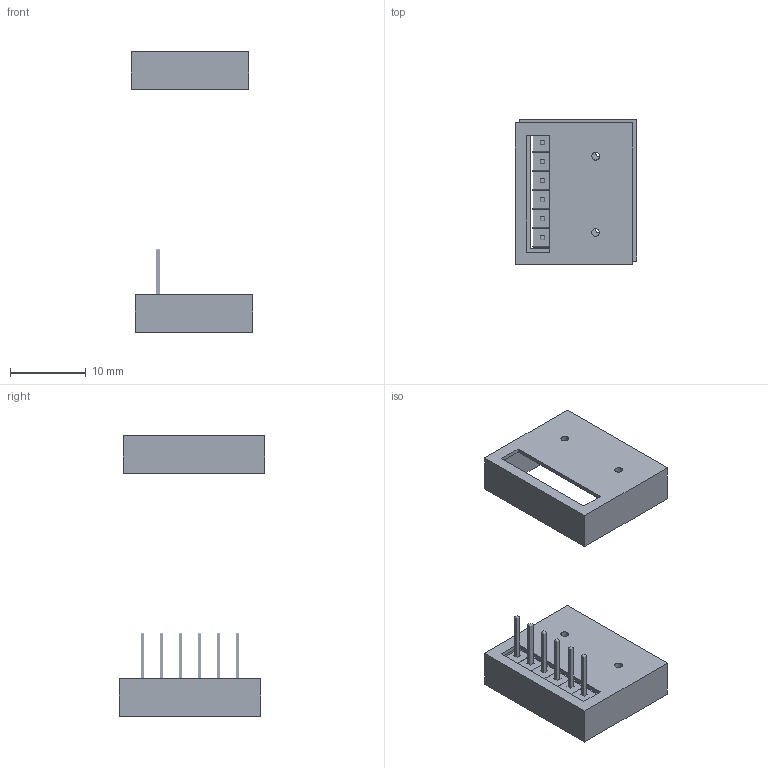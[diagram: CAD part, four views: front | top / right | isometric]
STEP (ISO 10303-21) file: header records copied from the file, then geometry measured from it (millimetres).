
FILE_DESCRIPTION(/* description */ ('STEP AP242 Edition 2','CAx-IF Rec.Pracs.---Representation and Presentation of Product Manufacturing Information (PMI)---4.0---2014-10-13','CAx-IF Rec.Pracs.---3D Tessellated Geometry---0.4---2014-09-14','2;1','CAx-IF Rec.Pracs.---User Defined Attributes---1.5---2016-08-15'),/* implementation_level */ '2;1');
FILE_NAME(/* name */ 'BMP280+mount',/* time_stamp */ '2026-02-01T16:55:09Z',/* author */ (''),/* organization */ (''),/* preprocessor_version */ 'ST-DEVELOPER v20',/* originating_system */ 'ONSHAPE BY PTC INC, 1.210',/* authorisation */ ' ');
FILE_SCHEMA (('AP242_MANAGED_MODEL_BASED_3D_ENGINEERING_MIM_LF { 1 0 10303 442 3 1 4 }'));
Length unit declared in the file: centimetre
Products named in the file (98): Part 1; id5; id8; id11; id14; id17; id20; id23; id26; id29; id32; id35; id38; id41; id44; id47; id50; id53; id56; id59; id62; id65; id68; id71; id74; id77; id80; id83; id86; id89; id92; id95; id98; id101; id104; id107; id110; id113; id116; id119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
Bounding box: 15.95 x 19.14 x 37.03 mm (x, y, z)
Volume: 1020.3 mm3; surface area: 3267.8 mm2
Topology: 2 solids, 98 shells, 138 faces, 104 edges, 72 vertices
Faces by surface type: other 96, plane 34, cylinder 8
Full cylindrical faces by diameter (mm): 1.017 x2, 1.024 x2, 2.823 x2, 2.853 x2
Entity records: 3415 total; most frequent: DIRECTION 384, CARTESIAN_POINT 292, ORIENTED_EDGE 176, AXIS2_PLACEMENT_3D 156, SHAPE_REPRESENTATION_RELATIONSHIP 98, SHAPE_DEFINITION_REPRESENTATION 98, SHAPE_REPRESENTATION 98, MECHANICAL_DESIGN_GEOMETRIC_PRESENTATION_REPRESENTATION 98
